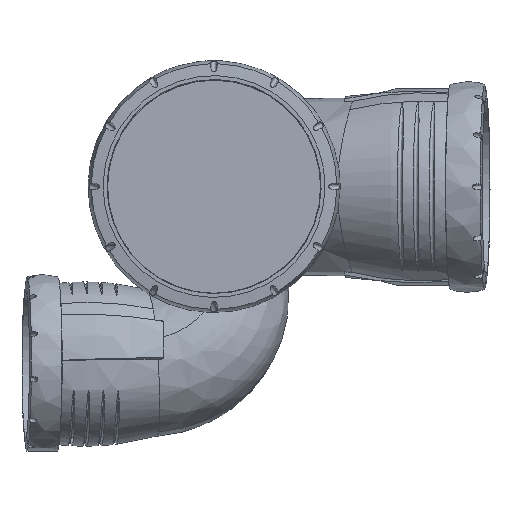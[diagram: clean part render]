
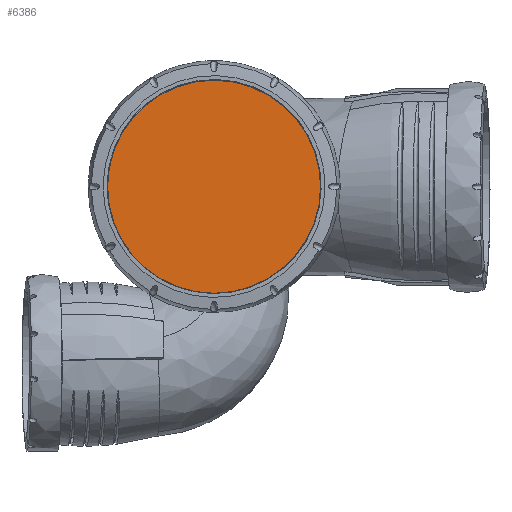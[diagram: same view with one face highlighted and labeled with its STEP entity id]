
A CAD part, top view. The second image highlights one B-rep face of the part: STEP entity #6386.
In plain terms, the highlighted planar face has unit normal (0, 0, 1).
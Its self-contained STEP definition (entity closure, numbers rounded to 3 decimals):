
#89=PLANE('',#6862);
#673=CIRCLE('',#6863,55.366);
#1078=FACE_OUTER_BOUND('',#1492,.T.);
#1492=EDGE_LOOP('',(#4834));
#2474=VERTEX_POINT('',#18221);
#3296=EDGE_CURVE('',#2474,#2474,#673,.T.);
#4834=ORIENTED_EDGE('',*,*,#3296,.F.);
#6386=ADVANCED_FACE('',(#1078),#89,.T.);
#6862=AXIS2_PLACEMENT_3D('',#18220,#7785,#7786);
#6863=AXIS2_PLACEMENT_3D('',#18222,#7787,#7788);
#7785=DIRECTION('center_axis',(0.,0.,
1.));
#7786=DIRECTION('ref_axis',(1.,0.,0.));
#7787=DIRECTION('center_axis',(0.,0.,
-1.));
#7788=DIRECTION('ref_axis',(1.,0.,0.));
#18220=CARTESIAN_POINT('Origin',(-55.366,-56.576,215.4));
#18221=CARTESIAN_POINT('',(-55.366,0.,215.4));
#18222=CARTESIAN_POINT('Origin',(0.,0.,
215.4));
